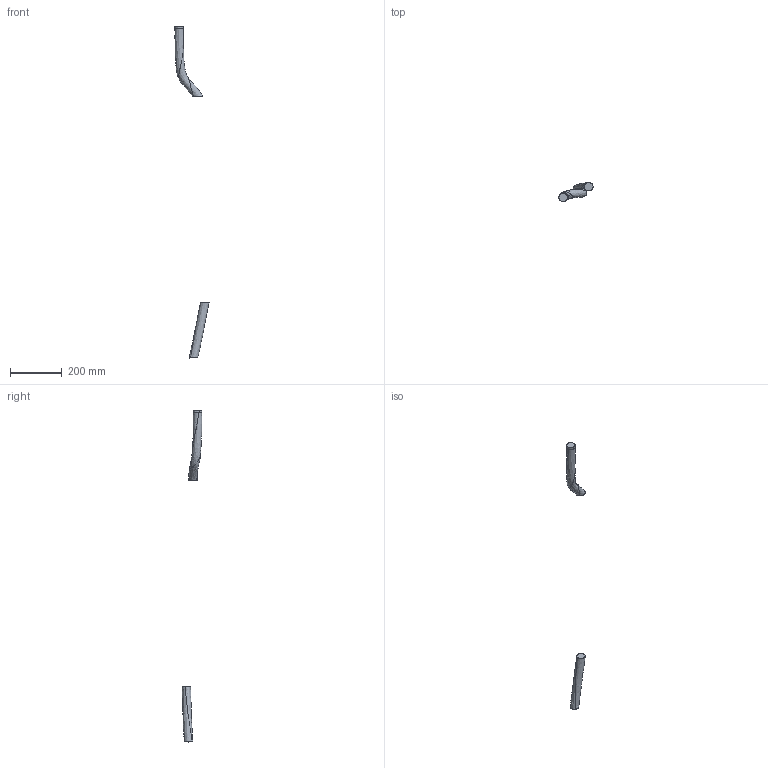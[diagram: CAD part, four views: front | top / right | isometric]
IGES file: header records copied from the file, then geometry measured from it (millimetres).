
Start section: SolidWorks IGES file using analytic representation for surfaces
Global section: file name: C:\Users\SEJAOLS6\OneDrive - ABB\Documents\SAP\7710\7710_Lightweight_models\IRB7710-LID-SW_400kg-285_OC_01_SW_J\IRB7710-LID-SW_400kg-285_OC_01_IGES_J\IRB77X0_All_OC_00_LINK02m_CABLE.igs; native system: SolidWorks 2024; preprocessor: SolidWorks 2024; author: SEJAOLS6; date: 260127.071821; units: millimetre
Bounding box: 132.13 x 76 x 1284.77 mm (x, y, z)
Surface area: 56910.1 mm2 (no closed solid volume)
Topology: 0 solids, 0 shells, 10 faces, 391 edges, 391 vertices
Faces by surface type: bspline 10
